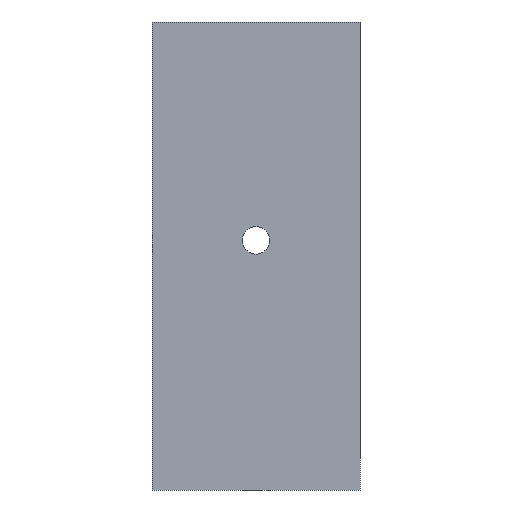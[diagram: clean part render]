
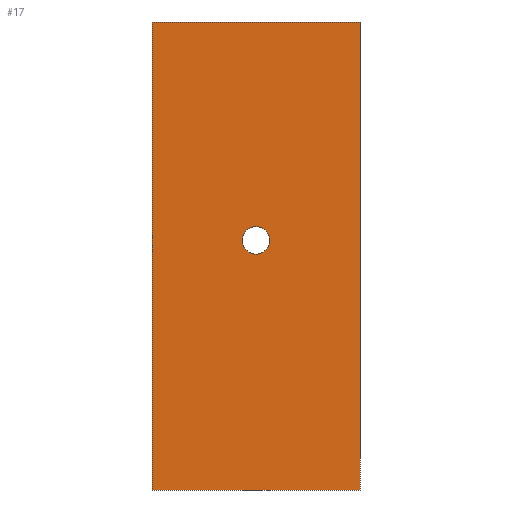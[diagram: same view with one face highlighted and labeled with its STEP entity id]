
A CAD part, left-side view. The second image highlights one B-rep face of the part: STEP entity #17.
In plain terms, the highlighted planar face has unit normal (-1, 0, 0).
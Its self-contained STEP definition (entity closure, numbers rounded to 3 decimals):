
#17 = ADVANCED_FACE('',(#18,#137),#32,.F.);
#18 = FACE_BOUND('',#19,.F.);
#19 = EDGE_LOOP('',(#20,#55,#83,#111));
#20 = ORIENTED_EDGE('',*,*,#21,.F.);
#21 = EDGE_CURVE('',#22,#24,#26,.T.);
#22 = VERTEX_POINT('',#23);
#23 = CARTESIAN_POINT('',(0.,-20.,0.));
#24 = VERTEX_POINT('',#25);
#25 = CARTESIAN_POINT('',(0.,-20.,90.));
#26 = SURFACE_CURVE('',#27,(#31,#43),.PCURVE_S1.);
#27 = LINE('',#28,#29);
#28 = CARTESIAN_POINT('',(0.,-20.,0.));
#29 = VECTOR('',#30,1.);
#30 = DIRECTION('',(0.,0.,1.));
#31 = PCURVE('',#32,#37);
#32 = PLANE('',#33);
#33 = AXIS2_PLACEMENT_3D('',#34,#35,#36);
#34 = CARTESIAN_POINT('',(0.,-20.,0.));
#35 = DIRECTION('',(1.,0.,0.));
#36 = DIRECTION('',(0.,0.,1.));
#37 = DEFINITIONAL_REPRESENTATION('',(#38),#42);
#38 = LINE('',#39,#40);
#39 = CARTESIAN_POINT('',(0.,0.));
#40 = VECTOR('',#41,1.);
#41 = DIRECTION('',(1.,0.));
#42 = ( GEOMETRIC_REPRESENTATION_CONTEXT(2) 
PARAMETRIC_REPRESENTATION_CONTEXT() REPRESENTATION_CONTEXT('2D SPACE',''
  ) );
#43 = PCURVE('',#44,#49);
#44 = PLANE('',#45);
#45 = AXIS2_PLACEMENT_3D('',#46,#47,#48);
#46 = CARTESIAN_POINT('',(0.,-20.,0.));
#47 = DIRECTION('',(0.,1.,0.));
#48 = DIRECTION('',(0.,0.,1.));
#49 = DEFINITIONAL_REPRESENTATION('',(#50),#54);
#50 = LINE('',#51,#52);
#51 = CARTESIAN_POINT('',(0.,0.));
#52 = VECTOR('',#53,1.);
#53 = DIRECTION('',(1.,0.));
#54 = ( GEOMETRIC_REPRESENTATION_CONTEXT(2) 
PARAMETRIC_REPRESENTATION_CONTEXT() REPRESENTATION_CONTEXT('2D SPACE',''
  ) );
#55 = ORIENTED_EDGE('',*,*,#56,.T.);
#56 = EDGE_CURVE('',#22,#57,#59,.T.);
#57 = VERTEX_POINT('',#58);
#58 = CARTESIAN_POINT('',(0.,20.,0.));
#59 = SURFACE_CURVE('',#60,(#64,#71),.PCURVE_S1.);
#60 = LINE('',#61,#62);
#61 = CARTESIAN_POINT('',(0.,-20.,0.));
#62 = VECTOR('',#63,1.);
#63 = DIRECTION('',(0.,1.,0.));
#64 = PCURVE('',#32,#65);
#65 = DEFINITIONAL_REPRESENTATION('',(#66),#70);
#66 = LINE('',#67,#68);
#67 = CARTESIAN_POINT('',(0.,0.));
#68 = VECTOR('',#69,1.);
#69 = DIRECTION('',(0.,-1.));
#70 = ( GEOMETRIC_REPRESENTATION_CONTEXT(2) 
PARAMETRIC_REPRESENTATION_CONTEXT() REPRESENTATION_CONTEXT('2D SPACE',''
  ) );
#71 = PCURVE('',#72,#77);
#72 = PLANE('',#73);
#73 = AXIS2_PLACEMENT_3D('',#74,#75,#76);
#74 = CARTESIAN_POINT('',(0.,-20.,0.));
#75 = DIRECTION('',(0.,0.,1.));
#76 = DIRECTION('',(1.,0.,0.));
#77 = DEFINITIONAL_REPRESENTATION('',(#78),#82);
#78 = LINE('',#79,#80);
#79 = CARTESIAN_POINT('',(0.,0.));
#80 = VECTOR('',#81,1.);
#81 = DIRECTION('',(0.,1.));
#82 = ( GEOMETRIC_REPRESENTATION_CONTEXT(2) 
PARAMETRIC_REPRESENTATION_CONTEXT() REPRESENTATION_CONTEXT('2D SPACE',''
  ) );
#83 = ORIENTED_EDGE('',*,*,#84,.F.);
#84 = EDGE_CURVE('',#85,#57,#87,.T.);
#85 = VERTEX_POINT('',#86);
#86 = CARTESIAN_POINT('',(0.,20.,90.));
#87 = SURFACE_CURVE('',#88,(#92,#99),.PCURVE_S1.);
#88 = LINE('',#89,#90);
#89 = CARTESIAN_POINT('',(0.,20.,90.));
#90 = VECTOR('',#91,1.);
#91 = DIRECTION('',(0.,0.,-1.));
#92 = PCURVE('',#32,#93);
#93 = DEFINITIONAL_REPRESENTATION('',(#94),#98);
#94 = LINE('',#95,#96);
#95 = CARTESIAN_POINT('',(90.,-40.));
#96 = VECTOR('',#97,1.);
#97 = DIRECTION('',(-1.,0.));
#98 = ( GEOMETRIC_REPRESENTATION_CONTEXT(2) 
PARAMETRIC_REPRESENTATION_CONTEXT() REPRESENTATION_CONTEXT('2D SPACE',''
  ) );
#99 = PCURVE('',#100,#105);
#100 = PLANE('',#101);
#101 = AXIS2_PLACEMENT_3D('',#102,#103,#104);
#102 = CARTESIAN_POINT('',(0.,20.,0.));
#103 = DIRECTION('',(0.,1.,0.));
#104 = DIRECTION('',(0.,0.,1.));
#105 = DEFINITIONAL_REPRESENTATION('',(#106),#110);
#106 = LINE('',#107,#108);
#107 = CARTESIAN_POINT('',(90.,0.));
#108 = VECTOR('',#109,1.);
#109 = DIRECTION('',(-1.,0.));
#110 = ( GEOMETRIC_REPRESENTATION_CONTEXT(2) 
PARAMETRIC_REPRESENTATION_CONTEXT() REPRESENTATION_CONTEXT('2D SPACE',''
  ) );
#111 = ORIENTED_EDGE('',*,*,#112,.F.);
#112 = EDGE_CURVE('',#24,#85,#113,.T.);
#113 = SURFACE_CURVE('',#114,(#118,#125),.PCURVE_S1.);
#114 = LINE('',#115,#116);
#115 = CARTESIAN_POINT('',(0.,-20.,90.));
#116 = VECTOR('',#117,1.);
#117 = DIRECTION('',(0.,1.,0.));
#118 = PCURVE('',#32,#119);
#119 = DEFINITIONAL_REPRESENTATION('',(#120),#124);
#120 = LINE('',#121,#122);
#121 = CARTESIAN_POINT('',(90.,0.));
#122 = VECTOR('',#123,1.);
#123 = DIRECTION('',(0.,-1.));
#124 = ( GEOMETRIC_REPRESENTATION_CONTEXT(2) 
PARAMETRIC_REPRESENTATION_CONTEXT() REPRESENTATION_CONTEXT('2D SPACE',''
  ) );
#125 = PCURVE('',#126,#131);
#126 = PLANE('',#127);
#127 = AXIS2_PLACEMENT_3D('',#128,#129,#130);
#128 = CARTESIAN_POINT('',(0.,-20.,90.));
#129 = DIRECTION('',(0.,0.,1.));
#130 = DIRECTION('',(1.,0.,0.));
#131 = DEFINITIONAL_REPRESENTATION('',(#132),#136);
#132 = LINE('',#133,#134);
#133 = CARTESIAN_POINT('',(0.,0.));
#134 = VECTOR('',#135,1.);
#135 = DIRECTION('',(0.,1.));
#136 = ( GEOMETRIC_REPRESENTATION_CONTEXT(2) 
PARAMETRIC_REPRESENTATION_CONTEXT() REPRESENTATION_CONTEXT('2D SPACE',''
  ) );
#137 = FACE_BOUND('',#138,.F.);
#138 = EDGE_LOOP('',(#139));
#139 = ORIENTED_EDGE('',*,*,#140,.F.);
#140 = EDGE_CURVE('',#141,#141,#143,.T.);
#141 = VERTEX_POINT('',#142);
#142 = CARTESIAN_POINT('',(-0.,2.65,48.));
#143 = SURFACE_CURVE('',#144,(#149,#156),.PCURVE_S1.);
#144 = CIRCLE('',#145,2.65);
#145 = AXIS2_PLACEMENT_3D('',#146,#147,#148);
#146 = CARTESIAN_POINT('',(0.,0.,48.));
#147 = DIRECTION('',(1.,0.,0.));
#148 = DIRECTION('',(0.,1.,0.));
#149 = PCURVE('',#32,#150);
#150 = DEFINITIONAL_REPRESENTATION('',(#151),#155);
#151 = CIRCLE('',#152,2.65);
#152 = AXIS2_PLACEMENT_2D('',#153,#154);
#153 = CARTESIAN_POINT('',(48.,-20.));
#154 = DIRECTION('',(0.,-1.));
#155 = ( GEOMETRIC_REPRESENTATION_CONTEXT(2) 
PARAMETRIC_REPRESENTATION_CONTEXT() REPRESENTATION_CONTEXT('2D SPACE',''
  ) );
#156 = PCURVE('',#157,#162);
#157 = CYLINDRICAL_SURFACE('',#158,2.65);
#158 = AXIS2_PLACEMENT_3D('',#159,#160,#161);
#159 = CARTESIAN_POINT('',(0.,0.,48.));
#160 = DIRECTION('',(1.,0.,0.));
#161 = DIRECTION('',(0.,1.,0.));
#162 = DEFINITIONAL_REPRESENTATION('',(#163),#167);
#163 = LINE('',#164,#165);
#164 = CARTESIAN_POINT('',(0.,0.));
#165 = VECTOR('',#166,1.);
#166 = DIRECTION('',(1.,0.));
#167 = ( GEOMETRIC_REPRESENTATION_CONTEXT(2) 
PARAMETRIC_REPRESENTATION_CONTEXT() REPRESENTATION_CONTEXT('2D SPACE',''
  ) );
